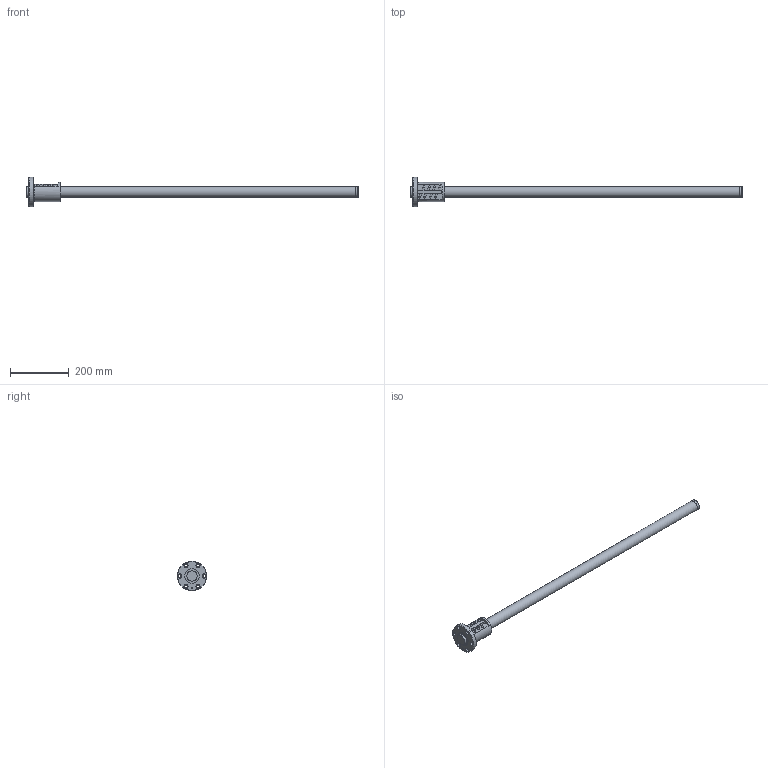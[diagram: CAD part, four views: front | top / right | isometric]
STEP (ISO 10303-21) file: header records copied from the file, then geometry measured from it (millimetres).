
FILE_DESCRIPTION( ( 'STEP AP203' ), ' ' );
FILE_NAME( 'p:/temp/worker_50/3228_2824/app_83_12018011812102096044071818fa3fd_000000_00_00_000000/format_0/BIF3606-10RRG0+1127LC0_10000.stp', '2018-01-18T11:10:22', ( '' ), ( '' ), ' ', 'PARTsolutions', ' ' );
FILE_SCHEMA( ( 'CONFIG_CONTROL_DESIGN' ) );
Length unit declared in the file: millimetre
Products named in the file (3): BIF3606-10RRG0+1127LC0_10000; _BIF 3606-10RR1000500 Shaft; _BIF 3606-10RR Nut
Assembly tree (2 placements, depth 2):
  BIF3606-10RRG0+1127LC0_10000
    _BIF 3606-10RR1000500 Shaft
    _BIF 3606-10RR Nut
Bounding box: 1127 x 100 x 100 mm (x, y, z)
Volume: 1409385.6 mm3; surface area: 185755.8 mm2
Topology: 2 solids, 2 shells, 106 faces, 242 edges, 153 vertices
Faces by surface type: cylinder 47, plane 43, cone 8, torus 8
Full cylindrical faces by diameter (mm): 4.25 x2, 4.917 x1, 5.7 x8, 9 x6, 14 x6, 35.5 x2, 36 x4, 49.2 x2, 65 x1, 100 x1
Entity records: 3258 total; most frequent: CARTESIAN_POINT 875, DIRECTION 512, ORIENTED_EDGE 374, AXIS2_PLACEMENT_3D 232, EDGE_LOOP 192, EDGE_CURVE 187, FACE_OUTER_BOUND 139, VERTEX_POINT 139
